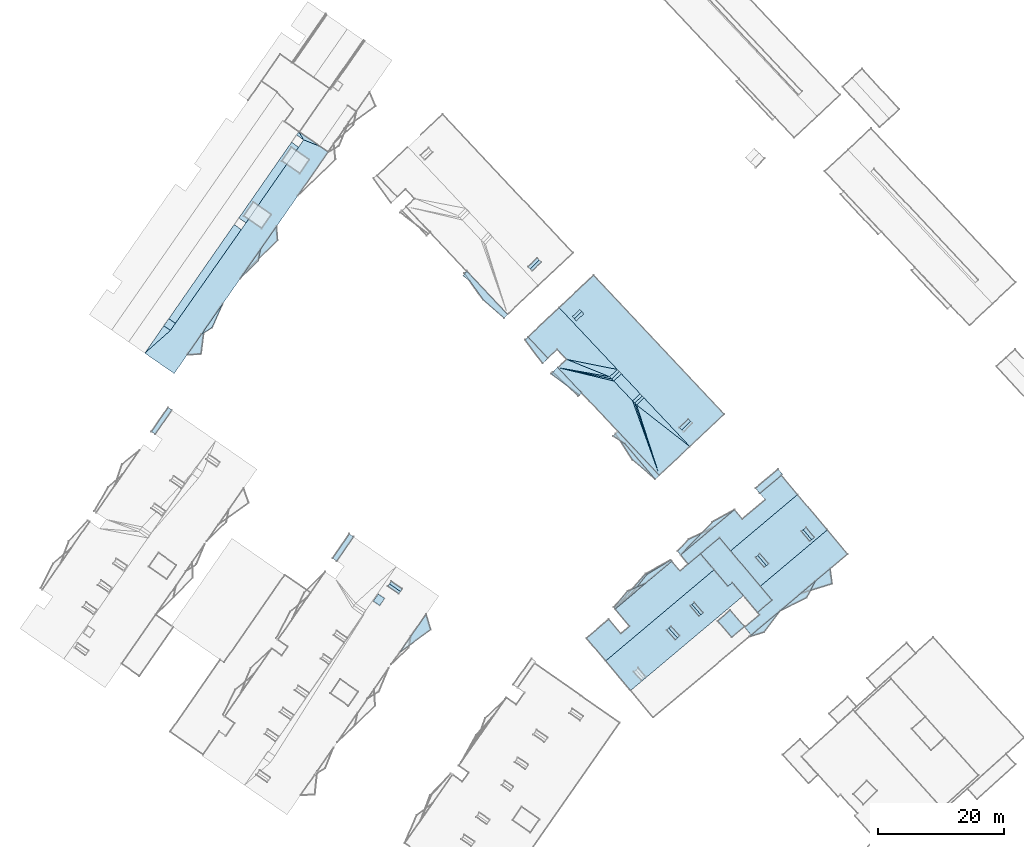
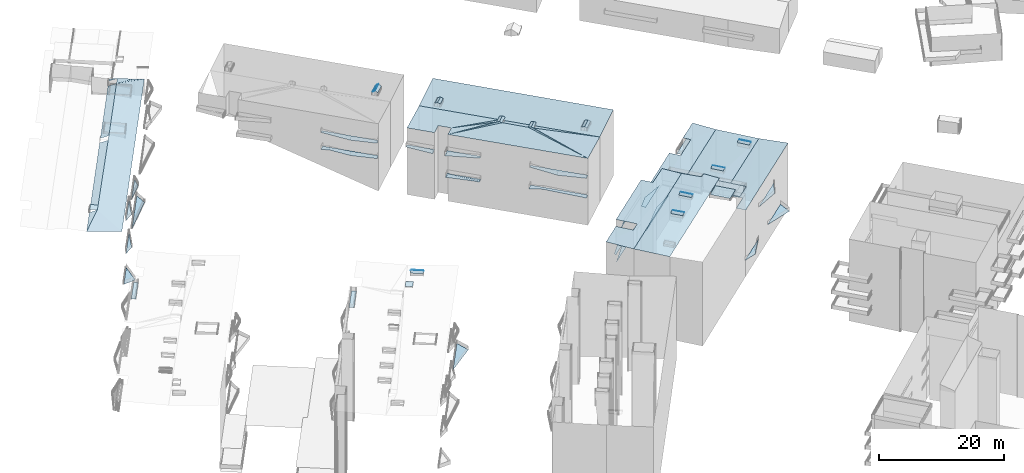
# Not in any storey, part 130 of 136: 111 roofs.
"""IFC4 building model written with IfcOpenShell, lengths in metres."""

from ifc_helpers import new_model, entity, si_unit, converted_unit, frame, origin, place, context, subcontext, project, spatial, face_set, surface_model, element, save


model = new_model("IFC4")

# Units and contexts
model_context = context("Model", 3, precision=1e-05, world=origin())
body_context = subcontext(model_context, "Body", "Model", "MODEL_VIEW")
ifc_project = project(units=[converted_unit("PLANEANGLEUNIT", "DEGREE", entity("IfcRatioMeasure", 0.0174532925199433), si_unit("PLANEANGLEUNIT", "RADIAN"), dimensions=[0, 0, 0, 0, 0, 0, 0]), si_unit("AREAUNIT", "SQUARE_METRE"), si_unit("LENGTHUNIT", "METRE")], contexts=[model_context])

# Site, building
site_placement = place(None, origin())
site = spatial("IfcSite", under=ifc_project, at=site_placement, Name="_site")
building_1_placement = place(site_placement, origin())
building_1 = spatial("IfcBuilding", under=site, at=building_1_placement, Name="_building")

# Roofs
for number, where, name in (
    (1, (0.0, 0.0, 0.0), "Roof"),
    (2, (0.0, 0.0, 0.0), "Roof"),
):
    element("IfcRoof", number, at=place(building_1_placement, frame(where)), inside=building_1, Name=name, PredefinedType="NOTDEFINED", context=body_context, shape_type="SurfaceModel", body=[
        surface_model("IfcFaceBasedSurfaceModel", [(26.69, 109.49, 51.65), (27.87, 110.61, 51.65), (27.56, 110.94, 51.47), (26.38, 109.82, 51.47)], [face_set([[[0, 1, 2, 3]]])]),
    ])
for number, where, name in (
    (3, (0.0, 0.0, 0.0), "Roof"),
    (4, (0.0, 0.0, 0.0), "Roof"),
):
    element("IfcRoof", number, at=place(building_1_placement, frame(where)), inside=building_1, Name=name, PredefinedType="NOTDEFINED", context=body_context, shape_type="SurfaceModel", body=[
        surface_model("IfcFaceBasedSurfaceModel", [(26.69, 109.49, 51.65), (27.02, 109.14, 51.49), (28.2, 110.26, 51.49), (27.87, 110.61, 51.65)], [face_set([[[0, 1, 2, 3]]])]),
    ])
roof_1_placement = place(building_1_placement, origin())
element("IfcRoof", 5, at=roof_1_placement, inside=building_1, Name="Roof", PredefinedType="NOTDEFINED", context=body_context, shape_type="SurfaceModel", body=[
    surface_model("IfcFaceBasedSurfaceModel", [(44.98, 89.26, 50.8), (50.43, 94.4, 51.09), (29.77, 116.36, 51.15), (24.31, 111.23, 50.8), (33.503, 101.462, 50.8), (33.83, 101.12, 50.8), (34.149, 100.77, 50.8), (37.09, 97.64, 50.8), (37.43, 97.28, 50.8), (37.711, 96.981, 50.8)], [face_set([[[0, 1, 2, 3, 4, 5, 6, 7, 8, 9]]])]),
])
for number, where, name in (
    (6, (0.0, 0.0, 0.0), "Roof"),
    (7, (0.0, 0.0, 0.0), "Roof"),
):
    element("IfcRoof", number, at=place(building_1_placement, frame(where)), inside=building_1, Name=name, PredefinedType="NOTDEFINED", context=body_context, shape_type="SurfaceModel", body=[
        surface_model("IfcFaceBasedSurfaceModel", [(45.08, 93.24, 51.69), (44.73, 93.59, 51.54), (43.33, 92.23, 51.54), (43.68, 91.88, 51.69)], [face_set([[[0, 1, 2, 3]]])]),
    ])
roof_2_placement = place(building_1_placement, origin())
element("IfcRoof", 8, at=roof_2_placement, inside=building_1, Name="Roof", PredefinedType="NOTDEFINED", context=body_context, shape_type="SurfaceModel", body=[
    surface_model("IfcFaceBasedSurfaceModel", [(44.98, 89.26, 50.8), (50.43, 94.4, 51.09), (29.77, 116.36, 51.15), (24.31, 111.23, 50.8), (33.503, 101.462, 50.8), (33.83, 101.12, 50.8), (34.149, 100.77, 50.8), (37.09, 97.64, 50.8), (37.43, 97.28, 50.8), (37.711, 96.981, 50.8)], [face_set([[[0, 1, 2, 3, 4, 5, 6, 7, 8, 9]]])]),
])
for number, where, name in (
    (9, (0.0, 0.0, 0.0), "Roof"),
    (10, (0.0, 0.0, 0.0), "Roof"),
):
    element("IfcRoof", number, at=place(building_1_placement, frame(where)), inside=building_1, Name=name, PredefinedType="NOTDEFINED", context=body_context, shape_type="SurfaceModel", body=[
        surface_model("IfcFaceBasedSurfaceModel", [(37.711, 96.981, 50.8), (36.56, 95.84, 51.5), (36.27, 96.13, 51.62), (35.92, 96.49, 51.48), (37.09, 97.64, 50.8), (34.149, 100.77, 50.8), (32.94, 99.63, 51.52), (32.61, 99.97, 51.64), (32.29, 100.311, 51.49), (33.503, 101.462, 50.8), (24.31, 111.23, 50.8), (19.39, 106.59, 51.02), (22.53, 103.25, 51.02), (24.01, 104.64, 51.02), (25.51, 103.05, 51.02), (24.13, 101.75, 51.02), (40.15, 84.73, 51.06), (44.98, 89.26, 50.8)], [face_set([[[0, 1, 2, 3, 4, 5, 6, 7, 8, 9, 10, 11, 12, 13, 14, 15, 16, 17]]])]),
    ])
roof_3_placement = place(building_1_placement, origin())
element("IfcRoof", 11, at=roof_3_placement, inside=building_1, Name="Roof", PredefinedType="NOTDEFINED", context=body_context, shape_type="SurfaceModel", body=[
    surface_model("IfcFaceBasedSurfaceModel", [(45.08, 93.24, 51.69), (43.68, 91.88, 51.69), (43.98, 91.57, 51.48), (45.38, 92.93, 51.48)], [face_set([[[0, 1, 2, 3]]])]),
])
for number, where, name in (
    (12, (0.0, 0.0, 0.0), "Roof"),
    (13, (0.0, 0.0, 0.0), "Roof"),
):
    element("IfcRoof", number, at=place(building_1_placement, frame(where)), inside=building_1, Name=name, PredefinedType="NOTDEFINED", context=body_context, shape_type="SurfaceModel", body=[
        surface_model("IfcFaceBasedSurfaceModel", [(22.53, 103.25, 47.72), (19.39, 106.59, 47.72), (18.92, 106.15, 47.72), (21.71, 102.42, 47.72)], [face_set([[[0, 1, 2, 3]]])]),
    ])
for number, where, name in (
    (14, (0.0, 0.0, 0.0), "Roof"),
    (15, (0.0, 0.0, 0.0), "Roof"),
):
    element("IfcRoof", number, at=place(building_1_placement, frame(where)), inside=building_1, Name=name, PredefinedType="NOTDEFINED", context=body_context, shape_type="SurfaceModel", body=[
        surface_model("IfcFaceBasedSurfaceModel", [(27.9, 97.74, 43.37), (24.13, 101.75, 43.37), (24.07, 101.83, 43.37), (23.32, 101.04, 43.37), (27.33, 97.24, 43.37), (27.51, 97.4, 43.37)], [face_set([[[0, 1, 2, 3, 4, 5]]])]),
    ])
for number, where, name in (
    (16, (0.0, 0.0, 0.0), "Roof"),
    (17, (0.0, 0.0, 0.0), "Roof"),
):
    element("IfcRoof", number, at=place(building_1_placement, frame(where)), inside=building_1, Name=name, PredefinedType="NOTDEFINED", context=body_context, shape_type="SurfaceModel", body=[
        surface_model("IfcFaceBasedSurfaceModel", [(27.9, 97.74, 47.84), (24.13, 101.75, 47.84), (24.07, 101.83, 47.84), (23.05, 100.76, 47.84), (27.51, 97.4, 47.84)], [face_set([[[0, 1, 2, 3, 4]]])]),
    ])
for number, where, name in (
    (18, (0.0, 0.0, 0.0), "Roof"),
    (19, (0.0, 0.0, 0.0), "Roof"),
):
    element("IfcRoof", number, at=place(building_1_placement, frame(where)), inside=building_1, Name=name, PredefinedType="NOTDEFINED", context=body_context, shape_type="SurfaceModel", body=[
        surface_model("IfcFaceBasedSurfaceModel", [(39.52, 84.08, 43.92), (40.15, 84.73, 43.92), (33.61, 91.68, 43.92), (33.24, 91.32, 43.92), (32.86, 90.9, 43.92), (34.74, 89.67, 43.92)], [face_set([[[0, 1, 2, 3, 4, 5]]])]),
    ])
for number, where, name in (
    (20, (0.0, 0.0, 0.0), "Roof"),
    (21, (0.0, 0.0, 0.0), "Roof"),
):
    element("IfcRoof", number, at=place(building_1_placement, frame(where)), inside=building_1, Name=name, PredefinedType="NOTDEFINED", context=body_context, shape_type="SurfaceModel", body=[
        surface_model("IfcFaceBasedSurfaceModel", [(33.503, 101.462, 51.49), (32.29, 100.311, 51.49), (32.61, 99.97, 51.64), (33.83, 101.12, 51.64)], [face_set([[[0, 1, 2, 3]]])]),
    ])
for number, where, name in (
    (22, (0.0, 0.0, 0.0), "Roof"),
    (23, (0.0, 0.0, 0.0), "Roof"),
):
    element("IfcRoof", number, at=place(building_1_placement, frame(where)), inside=building_1, Name=name, PredefinedType="NOTDEFINED", context=body_context, shape_type="SurfaceModel", body=[
        surface_model("IfcFaceBasedSurfaceModel", [(33.83, 101.12, 51.64), (32.61, 99.97, 51.64), (32.94, 99.63, 51.52), (34.149, 100.77, 51.52)], [face_set([[[0, 1, 2, 3]]])]),
    ])
for number, where, name in (
    (24, (0.0, 0.0, 0.0), "Roof"),
    (25, (0.0, 0.0, 0.0), "Roof"),
):
    element("IfcRoof", number, at=place(building_1_placement, frame(where)), inside=building_1, Name=name, PredefinedType="NOTDEFINED", context=body_context, shape_type="SurfaceModel", body=[
        surface_model("IfcFaceBasedSurfaceModel", [(37.43, 97.28, 51.62), (36.27, 96.13, 51.62), (36.56, 95.84, 51.5), (37.711, 96.981, 51.5)], [face_set([[[0, 1, 2, 3]]])]),
    ])
for number, where, name in (
    (26, (0.0, 0.0, 0.0), "Roof"),
    (27, (0.0, 0.0, 0.0), "Roof"),
):
    element("IfcRoof", number, at=place(building_1_placement, frame(where)), inside=building_1, Name=name, PredefinedType="NOTDEFINED", context=body_context, shape_type="SurfaceModel", body=[
        surface_model("IfcFaceBasedSurfaceModel", [(37.09, 97.64, 51.48), (35.92, 96.49, 51.48), (36.27, 96.13, 51.62), (37.43, 97.28, 51.62)], [face_set([[[0, 1, 2, 3]]])]),
    ])
for number, where, name in (
    (28, (0.0, 0.0, 0.0), "Roof"),
    (29, (0.0, 0.0, 0.0), "Roof"),
):
    element("IfcRoof", number, at=place(building_1_placement, frame(where)), inside=building_1, Name=name, PredefinedType="NOTDEFINED", context=body_context, shape_type="SurfaceModel", body=[
        surface_model("IfcFaceBasedSurfaceModel", [(39.52, 84.08, 47.78), (40.15, 84.73, 47.78), (33.61, 91.68, 47.78), (33.24, 91.32, 47.78), (35.95, 87.13, 47.78)], [face_set([[[0, 1, 2, 3, 4]]])]),
    ])

# Building
building_2_placement = place(site_placement, origin())
building_2 = spatial("IfcBuilding", under=site, at=building_2_placement, Name="_building")

# Roofs
for number, where, name in (
    (30, (0.0, 0.0, 0.0), "Roof"),
    (31, (0.0, 0.0, 0.0), "Roof"),
):
    element("IfcRoof", number, at=place(building_2_placement, frame(where)), inside=building_2, Name=name, PredefinedType="NOTDEFINED", context=body_context, shape_type="SurfaceModel", body=[
        surface_model("IfcFaceBasedSurfaceModel", [(43.01, 59.01, 55.01), (43.37, 59.33, 54.79), (42.0, 60.86, 54.79), (41.64, 60.54, 55.01)], [face_set([[[0, 1, 2, 3]]])]),
    ])
roof_4_placement = place(building_2_placement, origin())
element("IfcRoof", 32, at=roof_4_placement, inside=building_2, Name="Roof", PredefinedType="NOTDEFINED", context=body_context, shape_type="SurfaceModel", body=[
    surface_model("IfcFaceBasedSurfaceModel", [(51.64, 59.08, 54.76), (53.62, 60.8, 54.76), (51.38, 63.38, 54.76), (49.4, 61.66, 54.76)], [face_set([[[0, 1, 2, 3]]])]),
])
roof_5_placement = place(building_2_placement, origin())
element("IfcRoof", 33, at=roof_5_placement, inside=building_2, Name="Roof", PredefinedType="NOTDEFINED", context=body_context, shape_type="SurfaceModel", body=[
    surface_model("IfcFaceBasedSurfaceModel", [(43.01, 59.01, 55.01), (41.64, 60.54, 55.01), (41.31, 60.24, 54.74), (42.68, 58.71, 54.74)], [face_set([[[0, 1, 2, 3]]])]),
])
roof_6_placement = place(building_2_placement, origin())
element("IfcRoof", 34, at=roof_6_placement, inside=building_2, Name="Roof", PredefinedType="NOTDEFINED", context=body_context, shape_type="SurfaceModel", body=[
    surface_model("IfcFaceBasedSurfaceModel", [(48.819, 69.779, 54.15), (48.43, 70.24, 54.181), (46.68, 72.311, 54.32), (44.75, 70.68, 54.37), (43.43, 69.58, 54.41), (42.13, 71.12, 54.41), (33.15, 63.57, 54.41), (35.46, 60.82, 54.41), (34.08, 59.65, 54.41), (32.17, 61.93, 54.41), (28.64, 58.96, 54.41), (31.68, 55.36, 54.15)], [face_set([[[0, 1, 2, 3, 4, 5, 6, 7, 8, 9, 10, 11]]])]),
])
for number, where, name in (
    (35, (0.0, 0.0, 0.0), "Roof"),
    (36, (0.0, 0.0, 0.0), "Roof"),
):
    element("IfcRoof", number, at=place(building_2_placement, frame(where)), inside=building_2, Name=name, PredefinedType="NOTDEFINED", context=body_context, shape_type="SurfaceModel", body=[
        surface_model("IfcFaceBasedSurfaceModel", [(46.71, 62.67, 55.0), (47.08, 62.99, 54.79), (45.68, 64.601, 54.79), (45.31, 64.28, 55.0)], [face_set([[[0, 1, 2, 3]]])]),
    ])
roof_7_placement = place(building_2_placement, origin())
element("IfcRoof", 37, at=roof_7_placement, inside=building_2, Name="Roof", PredefinedType="NOTDEFINED", context=body_context, shape_type="SurfaceModel", body=[
    surface_model("IfcFaceBasedSurfaceModel", [(48.819, 69.779, 54.15), (48.43, 70.24, 54.181), (46.68, 72.311, 54.32), (44.75, 70.68, 54.37), (43.43, 69.58, 54.41), (42.13, 71.12, 54.41), (33.15, 63.57, 54.41), (35.46, 60.82, 54.41), (34.08, 59.65, 54.41), (32.17, 61.93, 54.41), (28.64, 58.96, 54.41), (31.68, 55.36, 54.15)], [face_set([[[0, 1, 2, 3, 4, 5, 6, 7, 8, 9, 10, 11]]])]),
])
for number, where, name in (
    (38, (0.0, 0.0, 0.0), "Roof"),
    (39, (0.0, 0.0, 0.0), "Roof"),
):
    element("IfcRoof", number, at=place(building_2_placement, frame(where)), inside=building_2, Name=name, PredefinedType="NOTDEFINED", context=body_context, shape_type="SurfaceModel", body=[
        surface_model("IfcFaceBasedSurfaceModel", [(64.24, 74.521, 51.91), (64.69, 74.89, 51.65), (63.37, 76.48, 51.65), (62.92, 76.11, 51.91)], [face_set([[[0, 1, 2, 3]]])]),
    ])
for number, where, name in (
    (40, (0.0, 0.0, 0.0), "Roof"),
    (41, (0.0, 0.0, 0.0), "Roof"),
):
    element("IfcRoof", number, at=place(building_2_placement, frame(where)), inside=building_2, Name=name, PredefinedType="NOTDEFINED", context=body_context, shape_type="SurfaceModel", body=[
        surface_model("IfcFaceBasedSurfaceModel", [(62.02, 81.67, 50.91), (59.47, 84.71, 51.23), (56.06, 81.84, 51.23), (56.91, 80.83, 51.23), (53.3, 77.8, 51.23), (52.05, 79.28, 51.23), (43.54, 72.12, 51.23), (44.75, 70.68, 51.23), (46.68, 72.311, 51.2), (48.43, 70.24, 50.91)], [face_set([[[0, 1, 2, 3, 4, 5, 6, 7, 8, 9]]])]),
    ])
for number, where, name in (
    (42, (0.0, 0.0, 0.0), "Roof"),
    (43, (0.0, 0.0, 0.0), "Roof"),
):
    element("IfcRoof", number, at=place(building_2_placement, frame(where)), inside=building_2, Name=name, PredefinedType="NOTDEFINED", context=body_context, shape_type="SurfaceModel", body=[
        surface_model("IfcFaceBasedSurfaceModel", [(57.09, 70.43, 51.88), (57.44, 70.73, 51.63), (56.05, 72.33, 51.63), (55.71, 72.03, 51.88)], [face_set([[[0, 1, 2, 3]]])]),
    ])
roof_8_placement = place(building_2_placement, origin())
element("IfcRoof", 44, at=roof_8_placement, inside=building_2, Name="Roof", PredefinedType="NOTDEFINED", context=body_context, shape_type="SurfaceModel", body=[
    surface_model("IfcFaceBasedSurfaceModel", [(66.73, 76.08, 50.88), (62.02, 81.67, 50.91), (48.43, 70.24, 50.91), (48.819, 69.779, 50.954), (51.01, 67.17, 51.2), (51.71, 67.75, 51.2), (53.458, 65.678, 50.937), (53.832, 65.231, 50.88)], [face_set([[[0, 1, 2, 3, 4, 5, 6, 7]]])]),
])
roof_9_placement = place(building_2_placement, origin())
element("IfcRoof", 45, at=roof_9_placement, inside=building_2, Name="Roof", PredefinedType="NOTDEFINED", context=body_context, shape_type="SurfaceModel", body=[
    surface_model("IfcFaceBasedSurfaceModel", [(57.09, 70.43, 51.88), (55.71, 72.03, 51.88), (55.38, 71.75, 51.61), (56.77, 70.15, 51.61)], [face_set([[[0, 1, 2, 3]]])]),
])
roof_10_placement = place(building_2_placement, origin())
element("IfcRoof", 46, at=roof_10_placement, inside=building_2, Name="Roof", PredefinedType="NOTDEFINED", context=body_context, shape_type="SurfaceModel", body=[
    surface_model("IfcFaceBasedSurfaceModel", [(66.73, 76.08, 50.88), (62.02, 81.67, 50.91), (48.43, 70.24, 50.91), (48.819, 69.779, 50.954), (51.01, 67.17, 51.2), (51.71, 67.75, 51.2), (53.458, 65.678, 50.937), (53.832, 65.231, 50.88)], [face_set([[[0, 1, 2, 3, 4, 5, 6, 7]]])]),
])
roof_11_placement = place(building_2_placement, origin())
element("IfcRoof", 47, at=roof_11_placement, inside=building_2, Name="Roof", PredefinedType="NOTDEFINED", context=body_context, shape_type="SurfaceModel", body=[
    surface_model("IfcFaceBasedSurfaceModel", [(53.832, 65.231, 50.88), (56.01, 62.64, 51.2), (53.66, 60.67, 51.2), (54.7, 59.43, 51.2), (69.94, 72.26, 51.2), (66.73, 76.08, 50.88)], [face_set([[[0, 1, 2, 3, 4, 5]]])]),
])
for number, where, name in (
    (48, (0.0, 0.0, 0.0), "Roof"),
    (49, (0.0, 0.0, 0.0), "Roof"),
):
    element("IfcRoof", number, at=place(building_2_placement, frame(where)), inside=building_2, Name=name, PredefinedType="NOTDEFINED", context=body_context, shape_type="SurfaceModel", body=[
        surface_model("IfcFaceBasedSurfaceModel", [(53.458, 65.678, 54.1), (51.71, 67.75, 54.32), (51.01, 67.17, 54.32), (48.819, 69.779, 54.15), (31.68, 55.36, 54.15), (35.62, 50.67, 54.1)], [face_set([[[0, 1, 2, 3, 4, 5]]])]),
    ])
for number, where, name in (
    (50, (0.0, 0.0, 0.0), "Roof"),
    (51, (0.0, 0.0, 0.0), "Roof"),
):
    element("IfcRoof", number, at=place(building_2_placement, frame(where)), inside=building_2, Name=name, PredefinedType="NOTDEFINED", context=body_context, shape_type="SurfaceModel", body=[
        surface_model("IfcFaceBasedSurfaceModel", [(63.95, 74.28, 51.65), (64.24, 74.521, 51.91), (62.92, 76.11, 51.91), (62.63, 75.87, 51.65)], [face_set([[[0, 1, 2, 3]]])]),
    ])
roof_12_placement = place(building_2_placement, origin())
element("IfcRoof", 52, at=roof_12_placement, inside=building_2, Name="Roof", PredefinedType="NOTDEFINED", context=body_context, shape_type="SurfaceModel", body=[
    surface_model("IfcFaceBasedSurfaceModel", [(57.09, 70.43, 51.88), (55.71, 72.03, 51.88), (55.38, 71.75, 51.61), (56.77, 70.15, 51.61)], [face_set([[[0, 1, 2, 3]]])]),
])
for number, where, name in (
    (53, (0.0, 0.0, 0.0), "Roof"),
    (54, (0.0, 0.0, 0.0), "Roof"),
):
    element("IfcRoof", number, at=place(building_2_placement, frame(where)), inside=building_2, Name=name, PredefinedType="NOTDEFINED", context=body_context, shape_type="SurfaceModel", body=[
        surface_model("IfcFaceBasedSurfaceModel", [(46.71, 62.67, 55.0), (45.31, 64.28, 55.0), (45.04, 64.04, 54.71), (46.44, 62.43, 54.71)], [face_set([[[0, 1, 2, 3]]])]),
    ])
roof_13_placement = place(building_2_placement, origin())
element("IfcRoof", 55, at=roof_13_placement, inside=building_2, Name="Roof", PredefinedType="NOTDEFINED", context=body_context, shape_type="SurfaceModel", body=[
    surface_model("IfcFaceBasedSurfaceModel", [(43.01, 59.01, 55.01), (41.64, 60.54, 55.01), (41.31, 60.24, 54.74), (42.68, 58.71, 54.74)], [face_set([[[0, 1, 2, 3]]])]),
])
roof_14_placement = place(building_2_placement, origin())
element("IfcRoof", 56, at=roof_14_placement, inside=building_2, Name="Roof", PredefinedType="NOTDEFINED", context=body_context, shape_type="SurfaceModel", body=[
    surface_model("IfcFaceBasedSurfaceModel", [(51.64, 59.08, 54.76), (53.62, 60.8, 54.76), (51.38, 63.38, 54.76), (49.4, 61.66, 54.76)], [face_set([[[0, 1, 2, 3]]])]),
])
for number, where, name in (
    (57, (0.0, 0.0, 0.0), "Roof"),
    (58, (0.0, 0.0, 0.0), "Roof"),
):
    element("IfcRoof", number, at=place(building_2_placement, frame(where)), inside=building_2, Name=name, PredefinedType="NOTDEFINED", context=body_context, shape_type="SurfaceModel", body=[
        surface_model("IfcFaceBasedSurfaceModel", [(59.27, 63.28, 41.61), (54.35, 59.14, 41.61), (56.71, 59.92, 41.61)], [face_set([[[0, 1, 2]]])]),
    ])
for number, where, name in (
    (59, (0.0, 0.0, 0.0), "Roof"),
    (60, (0.0, 0.0, 0.0), "Roof"),
):
    element("IfcRoof", number, at=place(building_2_placement, frame(where)), inside=building_2, Name=name, PredefinedType="NOTDEFINED", context=body_context, shape_type="SurfaceModel", body=[
        surface_model("IfcFaceBasedSurfaceModel", [(33.15, 63.57, 47.57), (37.91, 67.58, 47.57), (35.14, 66.39, 47.57), (32.95, 63.811, 47.57)], [face_set([[[0, 1, 2, 3]]])]),
    ])
for number, where, name in (
    (61, (0.0, 0.0, 0.0), "Roof"),
    (62, (0.0, 0.0, 0.0), "Roof"),
):
    element("IfcRoof", number, at=place(building_2_placement, frame(where)), inside=building_2, Name=name, PredefinedType="NOTDEFINED", context=body_context, shape_type="SurfaceModel", body=[
        surface_model("IfcFaceBasedSurfaceModel", [(43.54, 72.12, 43.12), (52.05, 79.28, 43.12), (48.56, 77.32, 43.12)], [face_set([[[0, 1, 2]]])]),
    ])
for number, where, name in (
    (63, (0.0, 0.0, 0.0), "Roof"),
    (64, (0.0, 0.0, 0.0), "Roof"),
):
    element("IfcRoof", number, at=place(building_2_placement, frame(where)), inside=building_2, Name=name, PredefinedType="NOTDEFINED", context=body_context, shape_type="SurfaceModel", body=[
        surface_model("IfcFaceBasedSurfaceModel", [(43.04, 72.69, 47.93), (43.54, 72.12, 47.93), (48.63, 76.4, 47.93), (44.81, 74.59, 47.93)], [face_set([[[0, 1, 2, 3]]])]),
    ])
for number, where, name in (
    (65, (0.0, 0.0, 0.0), "Roof"),
    (66, (0.0, 0.0, 0.0), "Roof"),
):
    element("IfcRoof", number, at=place(building_2_placement, frame(where)), inside=building_2, Name=name, PredefinedType="NOTDEFINED", context=body_context, shape_type="SurfaceModel", body=[
        surface_model("IfcFaceBasedSurfaceModel", [(37.97, 69.101, 45.95), (33.15, 63.57, 45.95), (42.13, 71.12, 45.95), (41.98, 71.311, 45.95)], [face_set([[[0, 1, 2, 3]]])]),
    ])
for number, where, name in (
    (67, (0.0, 0.0, 0.0), "Roof"),
    (68, (0.0, 0.0, 0.0), "Roof"),
):
    element("IfcRoof", number, at=place(building_2_placement, frame(where)), inside=building_2, Name=name, PredefinedType="NOTDEFINED", context=body_context, shape_type="SurfaceModel", body=[
        surface_model("IfcFaceBasedSurfaceModel", [(67.18, 69.94, 41.61), (62.5, 66.0, 41.61), (67.48, 67.561, 41.61)], [face_set([[[0, 1, 2]]])]),
    ])
for number, where, name in (
    (69, (0.0, 0.0, 0.0), "Roof"),
    (70, (0.0, 0.0, 0.0), "Roof"),
):
    element("IfcRoof", number, at=place(building_2_placement, frame(where)), inside=building_2, Name=name, PredefinedType="NOTDEFINED", context=body_context, shape_type="SurfaceModel", body=[
        surface_model("IfcFaceBasedSurfaceModel", [(55.37, 82.66, 47.93), (56.06, 81.84, 47.93), (59.47, 84.71, 47.93), (59.64, 84.86, 47.93), (58.96, 85.68, 47.93)], [face_set([[[0, 1, 2, 3, 4]]])]),
    ])
for number, where, name in (
    (71, (0.0, 0.0, 0.0), "Roof"),
    (72, (0.0, 0.0, 0.0), "Roof"),
):
    element("IfcRoof", number, at=place(building_2_placement, frame(where)), inside=building_2, Name=name, PredefinedType="NOTDEFINED", context=body_context, shape_type="SurfaceModel", body=[
        surface_model("IfcFaceBasedSurfaceModel", [(33.15, 63.57, 51.18), (42.13, 71.12, 51.18), (41.98, 71.311, 51.18), (38.17, 69.0, 51.18), (35.39, 65.55, 51.18), (32.95, 63.811, 51.18)], [face_set([[[0, 1, 2, 3, 4, 5]]])]),
    ])
for number, where, name in (
    (73, (0.0, 0.0, 0.0), "Roof"),
    (74, (0.0, 0.0, 0.0), "Roof"),
):
    element("IfcRoof", number, at=place(building_2_placement, frame(where)), inside=building_2, Name=name, PredefinedType="NOTDEFINED", context=body_context, shape_type="SurfaceModel", body=[
        surface_model("IfcFaceBasedSurfaceModel", [(51.01, 67.17, 51.314), (51.71, 67.75, 51.314), (55.7, 63.021, 51.314), (58.0, 64.96, 51.314), (49.69, 74.84, 51.314), (46.68, 72.311, 51.314)], [face_set([[[0, 1, 2, 3, 4, 5]]])]),
    ])
for number, where, name in (
    (75, (0.0, 0.0, 0.0), "Roof"),
    (76, (0.0, 0.0, 0.0), "Roof"),
):
    element("IfcRoof", number, at=place(building_2_placement, frame(where)), inside=building_2, Name=name, PredefinedType="NOTDEFINED", context=body_context, shape_type="SurfaceModel", body=[
        surface_model("IfcFaceBasedSurfaceModel", [(64.83, 67.96, 47.81), (59.27, 63.28, 47.81), (63.47, 65.351, 47.81)], [face_set([[[0, 1, 2]]])]),
    ])
roof_15_placement = place(building_2_placement, origin())
element("IfcRoof", 77, at=roof_15_placement, inside=building_2, Name="Roof", PredefinedType="NOTDEFINED", context=body_context, shape_type="SurfaceModel", body=[
    surface_model("IfcFaceBasedSurfaceModel", [(53.832, 65.231, 50.88), (56.01, 62.64, 51.2), (53.66, 60.67, 51.2), (54.7, 59.43, 51.2), (69.94, 72.26, 51.2), (66.73, 76.08, 50.88)], [face_set([[[0, 1, 2, 3, 4, 5]]])]),
])

# Building
building_3_placement = place(site_placement, origin())
building_3 = spatial("IfcBuilding", under=site, at=building_3_placement, Name="_building")

# Roofs
for number, where, name in (
    (78, (0.0, 0.0, 0.0), "Roof"),
    (79, (0.0, 0.0, 0.0), "Roof"),
):
    element("IfcRoof", number, at=place(building_3_placement, frame(where)), inside=building_3, Name=name, PredefinedType="NOTDEFINED", context=body_context, shape_type="SurfaceModel", body=[
        surface_model("IfcFaceBasedSurfaceModel", [(-0.81, 66.33, 54.52), (-0.54, 66.73, 54.35), (-2.26, 67.92, 54.35), (-2.53, 67.53, 54.52)], [face_set([[[0, 1, 2, 3]]])]),
    ])
roof_16_placement = place(building_3_placement, origin())
element("IfcRoof", 80, at=roof_16_placement, inside=building_3, Name="Roof", PredefinedType="NOTDEFINED", context=body_context, shape_type="SurfaceModel", body=[
    surface_model("IfcFaceBasedSurfaceModel", [(-0.81, 66.33, 54.52), (-2.53, 67.53, 54.52), (-2.79, 67.15, 54.35), (-1.07, 65.96, 54.35)], [face_set([[[0, 1, 2, 3]]])]),
])
roof_17_placement = place(building_3_placement, origin())
element("IfcRoof", 81, at=roof_17_placement, inside=building_3, Name="Roof", PredefinedType="NOTDEFINED", context=body_context, shape_type="SurfaceModel", body=[
    surface_model("IfcFaceBasedSurfaceModel", [(-8.21, 74.97, 48.01), (-8.87, 75.43, 48.01), (-11.53, 71.59, 48.01), (-10.87, 71.13, 48.01)], [face_set([[[0, 1, 2, 3]]])]),
])
roof_18_placement = place(building_3_placement, origin())
element("IfcRoof", 82, at=roof_18_placement, inside=building_3, Name="Roof", PredefinedType="NOTDEFINED", context=body_context, shape_type="SurfaceModel", body=[
    surface_model("IfcFaceBasedSurfaceModel", [(-0.81, 66.33, 54.52), (-2.53, 67.53, 54.52), (-2.79, 67.15, 54.35), (-1.07, 65.96, 54.35)], [face_set([[[0, 1, 2, 3]]])]),
])
roof_19_placement = place(building_3_placement, origin())
element("IfcRoof", 83, at=roof_19_placement, inside=building_3, Name="Roof", PredefinedType="NOTDEFINED", context=body_context, shape_type="SurfaceModel", body=[
    surface_model("IfcFaceBasedSurfaceModel", [(-8.21, 74.97, 48.01), (-8.87, 75.43, 48.01), (-11.53, 71.59, 48.01), (-10.87, 71.13, 48.01)], [face_set([[[0, 1, 2, 3]]])]),
])
for number, where, name in (
    (84, (0.0, 0.0, 0.0), "Roof"),
    (85, (0.0, 0.0, 0.0), "Roof"),
):
    element("IfcRoof", number, at=place(building_3_placement, frame(where)), inside=building_3, Name=name, PredefinedType="NOTDEFINED", context=body_context, shape_type="SurfaceModel", body=[
        surface_model("IfcFaceBasedSurfaceModel", [(-4.32, 65.92, 54.02), (-5.1, 64.8, 54.02), (-4.1, 64.11, 54.02), (-3.32, 65.23, 54.02)], [face_set([[[0, 1, 2, 3]]])]),
    ])
for number, where, name in (
    (86, (0.0, 0.0, 0.0), "Roof"),
    (87, (0.0, 0.0, 0.0), "Roof"),
):
    element("IfcRoof", number, at=place(building_3_placement, frame(where)), inside=building_3, Name=name, PredefinedType="NOTDEFINED", context=body_context, shape_type="SurfaceModel", body=[
        surface_model("IfcFaceBasedSurfaceModel", [(0.85, 59.25, 41.18), (-0.93, 56.68, 41.18), (3.99, 60.311, 41.18), (3.26, 62.73, 41.18)], [face_set([[[0, 1, 2, 3]]])]),
    ])

# Building
building_4_placement = place(site_placement, origin())
building_4 = spatial("IfcBuilding", under=site, at=building_4_placement, Name="_building")

# Roofs
for number, where, name in (
    (88, (0.0, 0.0, 0.0), "Roof"),
    (89, (0.0, 0.0, 0.0), "Roof"),
):
    element("IfcRoof", number, at=place(building_4_placement, frame(where)), inside=building_4, Name=name, PredefinedType="NOTDEFINED", context=body_context, shape_type="SurfaceModel", body=[
        surface_model("IfcFaceBasedSurfaceModel", [(21.48, 118.42, 51.29), (21.16, 118.75, 51.62), (19.72, 117.38, 51.62), (20.03, 117.05, 51.29)], [face_set([[[0, 1, 2, 3]]])]),
    ])
for number, where, name in (
    (90, (0.0, 0.0, 0.0), "Roof"),
    (91, (0.0, 0.0, 0.0), "Roof"),
):
    element("IfcRoof", number, at=place(building_4_placement, frame(where)), inside=building_4, Name=name, PredefinedType="NOTDEFINED", context=body_context, shape_type="SurfaceModel", body=[
        surface_model("IfcFaceBasedSurfaceModel", [(21.16, 118.75, 51.62), (20.84, 119.09, 51.29), (19.4, 117.72, 51.29), (19.72, 117.38, 51.62)], [face_set([[[0, 1, 2, 3]]])]),
    ])
for number, where, name in (
    (92, (0.0, 0.0, 0.0), "Roof"),
    (93, (0.0, 0.0, 0.0), "Roof"),
):
    element("IfcRoof", number, at=place(building_4_placement, frame(where)), inside=building_4, Name=name, PredefinedType="NOTDEFINED", context=body_context, shape_type="SurfaceModel", body=[
        surface_model("IfcFaceBasedSurfaceModel", [(9.79, 116.93, 44.55), (9.06, 116.3, 44.55), (10.21, 115.43, 44.55), (12.31, 112.46, 44.55), (15.58, 109.58, 44.55), (16.14, 110.17, 44.55)], [face_set([[[0, 1, 2, 3, 4, 5]]])]),
    ])
for number, where, name in (
    (94, (0.0, 0.0, 0.0), "Roof"),
    (95, (0.0, 0.0, 0.0), "Roof"),
):
    element("IfcRoof", number, at=place(building_4_placement, frame(where)), inside=building_4, Name=name, PredefinedType="NOTDEFINED", context=body_context, shape_type="SurfaceModel", body=[
        surface_model("IfcFaceBasedSurfaceModel", [(16.14, 110.17, 47.54), (9.68, 117.05, 47.54), (9.31, 116.71, 47.54), (12.31, 112.46, 47.54), (15.58, 109.58, 47.54)], [face_set([[[0, 1, 2, 3, 4]]])]),
    ])

# Building
building_5_placement = place(site_placement, origin())
building_5 = spatial("IfcBuilding", under=site, at=building_5_placement, Name="_building")

# Roofs
for number, where, name in (
    (96, (0.0, 0.0, 0.0), "Roof"),
    (97, (0.0, 0.0, 0.0), "Roof"),
):
    element("IfcRoof", number, at=place(building_5_placement, frame(where)), inside=building_5, Name=name, PredefinedType="NOTDEFINED", context=body_context, shape_type="SurfaceModel", body=[
        surface_model("IfcFaceBasedSurfaceModel", [(-32.29, 107.021, 50.71), (-30.61, 108.09, 50.71), (-28.9, 111.89, 50.71), (-31.88, 107.61, 50.71)], [face_set([[[0, 1, 2, 3]]])]),
    ])
for number, where, name in (
    (98, (0.0, 0.0, 0.0), "Roof"),
    (99, (0.0, 0.0, 0.0), "Roof"),
):
    element("IfcRoof", number, at=place(building_5_placement, frame(where)), inside=building_5, Name=name, PredefinedType="NOTDEFINED", context=body_context, shape_type="SurfaceModel", body=[
        surface_model("IfcFaceBasedSurfaceModel", [(-32.29, 107.021, 44.27), (-30.61, 108.09, 44.27), (-28.9, 111.89, 44.27), (-31.88, 107.61, 44.27)], [face_set([[[0, 1, 2, 3]]])]),
    ])
for number, where, name in (
    (100, (0.0, 0.0, 0.0), "Roof"),
    (101, (0.0, 0.0, 0.0), "Roof"),
):
    element("IfcRoof", number, at=place(building_5_placement, frame(where)), inside=building_5, Name=name, PredefinedType="NOTDEFINED", context=body_context, shape_type="SurfaceModel", body=[
        surface_model("IfcFaceBasedSurfaceModel", [(-32.35, 103.91, 41.08), (-31.88, 107.61, 41.08), (-32.29, 107.021, 41.08), (-34.56, 103.76, 41.08)], [face_set([[[0, 1, 2, 3]]])]),
    ])
roof_20_placement = place(building_5_placement, origin())
element("IfcRoof", 102, at=roof_20_placement, inside=building_5, Name="Roof", PredefinedType="NOTDEFINED", context=body_context, shape_type="SurfaceModel", body=[
    surface_model("IfcFaceBasedSurfaceModel", [(-41.26, 104.04, 53.58), (-36.61, 100.811, 53.93), (-12.24, 135.84, 53.93), (-13.62, 136.8, 53.826), (-16.89, 139.07, 53.58), (-17.248, 138.56, 53.58), (-16.13, 137.78, 54.2), (-16.92, 136.64, 54.2), (-18.039, 137.419, 53.58), (-26.373, 125.432, 53.58), (-25.25, 124.65, 54.2), (-25.99, 123.601, 54.2), (-27.11, 124.38, 53.58), (-37.463, 109.492, 53.58), (-36.41, 108.76, 54.2), (-37.19, 107.64, 54.2), (-38.249, 108.369, 53.58)], [face_set([[[0, 1, 2, 3, 4, 5, 6, 7, 8, 9, 10, 11, 12, 13, 14, 15, 16]]])]),
])
for number, where, name in (
    (103, (0.0, 0.0, 0.0), "Roof"),
    (104, (0.0, 0.0, 0.0), "Roof"),
):
    element("IfcRoof", number, at=place(building_5_placement, frame(where)), inside=building_5, Name=name, PredefinedType="NOTDEFINED", context=body_context, shape_type="SurfaceModel", body=[
        surface_model("IfcFaceBasedSurfaceModel", [(-22.92, 120.5, 47.36), (-26.19, 115.8, 47.36), (-23.3, 118.65, 47.36)], [face_set([[[0, 1, 2]]])]),
    ])
for number, where, name in (
    (105, (0.0, 0.0, 0.0), "Roof"),
    (106, (0.0, 0.0, 0.0), "Roof"),
):
    element("IfcRoof", number, at=place(building_5_placement, frame(where)), inside=building_5, Name=name, PredefinedType="NOTDEFINED", context=body_context, shape_type="SurfaceModel", body=[
        surface_model("IfcFaceBasedSurfaceModel", [(-22.92, 120.5, 41.07), (-25.68, 116.53, 41.07), (-20.25, 121.92, 41.07), (-20.4, 124.12, 41.07)], [face_set([[[0, 1, 2, 3]]])]),
    ])
roof_21_placement = place(building_5_placement, origin())
element("IfcRoof", 107, at=roof_21_placement, inside=building_5, Name="Roof", PredefinedType="NOTDEFINED", context=body_context, shape_type="SurfaceModel", body=[
    surface_model("IfcFaceBasedSurfaceModel", [(-41.26, 104.04, 53.58), (-36.61, 100.811, 53.93), (-12.24, 135.84, 53.93), (-13.62, 136.8, 53.826), (-16.89, 139.07, 53.58), (-17.248, 138.56, 53.58), (-16.13, 137.78, 54.2), (-16.92, 136.64, 54.2), (-18.039, 137.419, 53.58), (-26.373, 125.432, 53.58), (-25.25, 124.65, 54.2), (-25.99, 123.601, 54.2), (-27.11, 124.38, 53.58), (-37.463, 109.492, 53.58), (-36.41, 108.76, 54.2), (-37.19, 107.64, 54.2), (-38.249, 108.369, 53.58)], [face_set([[[0, 1, 2, 3, 4, 5, 6, 7, 8, 9, 10, 11, 12, 13, 14, 15, 16]]])]),
])
for number, where, name in (
    (108, (0.0, 0.0, 0.0), "Roof"),
    (109, (0.0, 0.0, 0.0), "Roof"),
):
    element("IfcRoof", number, at=place(building_5_placement, frame(where)), inside=building_5, Name=name, PredefinedType="NOTDEFINED", context=body_context, shape_type="SurfaceModel", body=[
        surface_model("IfcFaceBasedSurfaceModel", [(-38.249, 108.369, 54.2), (-37.19, 107.64, 54.2), (-36.41, 108.76, 54.2), (-37.463, 109.492, 54.2)], [face_set([[[0, 1, 2, 3]]])]),
    ])

# Building
building_6_placement = place(site_placement, origin())
building_6 = spatial("IfcBuilding", under=site, at=building_6_placement, Name="_building")

# Roofs
for number, where, name in (
    (110, (0.0, 0.0, 0.0), "Roof"),
    (111, (0.0, 0.0, 0.0), "Roof"),
):
    element("IfcRoof", number, at=place(building_6_placement, frame(where)), inside=building_6, Name=name, PredefinedType="NOTDEFINED", context=body_context, shape_type="SurfaceModel", body=[
        surface_model("IfcFaceBasedSurfaceModel", [(-36.96, 95.01, 47.55), (-37.56, 95.43, 47.55), (-40.2, 91.63, 47.55), (-39.6, 91.21, 47.55)], [face_set([[[0, 1, 2, 3]]])]),
    ])

save(model, "model.ifc")
